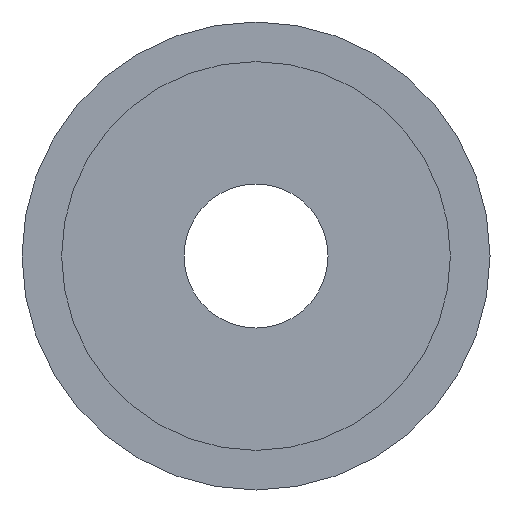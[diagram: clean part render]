
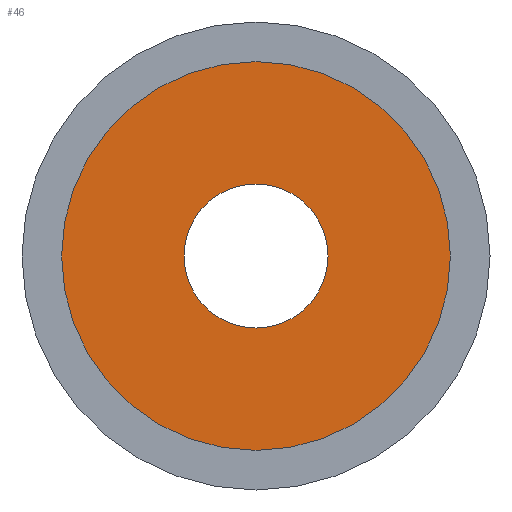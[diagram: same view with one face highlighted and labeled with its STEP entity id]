
A CAD part, front view. The second image highlights one B-rep face of the part: STEP entity #46.
In plain terms, the highlighted planar face has unit normal (0, -1, 0).
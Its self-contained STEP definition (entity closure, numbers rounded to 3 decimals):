
#46 = ADVANCED_FACE ( 'NONE', ( #283, #278 ), #277, .F. ) ;
#47 = ORIENTED_EDGE ( 'NONE', *, *, #246, .T. ) ;
#48 = ORIENTED_EDGE ( 'NONE', *, *, #49, .T. ) ;
#49 = EDGE_CURVE ( 'NONE', #244, #247, #272, .T. ) ;
#50 = EDGE_LOOP ( 'NONE', ( #51, #52 ) ) ;
#51 = ORIENTED_EDGE ( 'NONE', *, *, #232, .T. ) ;
#52 = ORIENTED_EDGE ( 'NONE', *, *, #53, .T. ) ;
#53 = EDGE_CURVE ( 'NONE', #230, #233, #321, .T. ) ;
#57 = EDGE_LOOP ( 'NONE', ( #47, #48 ) ) ;
#230 = VERTEX_POINT ( 'NONE', #421 ) ;
#232 = EDGE_CURVE ( 'NONE', #233, #230, #420, .T. ) ;
#233 = VERTEX_POINT ( 'NONE', #415 ) ;
#244 = VERTEX_POINT ( 'NONE', #457 ) ;
#246 = EDGE_CURVE ( 'NONE', #247, #244, #456, .T. ) ;
#247 = VERTEX_POINT ( 'NONE', #451 ) ;
#268 = DIRECTION ( 'NONE',  ( 0., 0., -1. ) ) ;
#269 = DIRECTION ( 'NONE',  ( 0., -1., 0. ) ) ;
#270 = CARTESIAN_POINT ( 'NONE',  ( 0., 0., 0. ) ) ;
#271 = AXIS2_PLACEMENT_3D ( 'NONE', #270, #269, #268 ) ;
#272 = CIRCLE ( 'NONE', #271, 5.4 ) ;
#273 = DIRECTION ( 'NONE',  ( 0., 0., 1. ) ) ;
#274 = DIRECTION ( 'NONE',  ( 0., 1., 0. ) ) ;
#275 = CARTESIAN_POINT ( 'NONE',  ( 0., 0., 0. ) ) ;
#276 = AXIS2_PLACEMENT_3D ( 'NONE', #275, #274, #273 ) ;
#277 = PLANE ( 'NONE',  #276 ) ;
#278 = FACE_BOUND ( 'NONE', #50, .T. ) ;
#283 = FACE_OUTER_BOUND ( 'NONE', #57, .T. ) ;
#317 = DIRECTION ( 'NONE',  ( 0., 0., 1. ) ) ;
#318 = DIRECTION ( 'NONE',  ( 0., 1., 0. ) ) ;
#319 = CARTESIAN_POINT ( 'NONE',  ( 0., 0., 0. ) ) ;
#320 = AXIS2_PLACEMENT_3D ( 'NONE', #319, #318, #317 ) ;
#321 = CIRCLE ( 'NONE', #320, 2. ) ;
#415 = CARTESIAN_POINT ( 'NONE',  ( 0., 0., -2. ) ) ;
#416 = DIRECTION ( 'NONE',  ( 0., 0., 1. ) ) ;
#417 = DIRECTION ( 'NONE',  ( 0., 1., 0. ) ) ;
#418 = CARTESIAN_POINT ( 'NONE',  ( 0., 0., 0. ) ) ;
#419 = AXIS2_PLACEMENT_3D ( 'NONE', #418, #417, #416 ) ;
#420 = CIRCLE ( 'NONE', #419, 2. ) ;
#421 = CARTESIAN_POINT ( 'NONE',  ( 0., 0., 2. ) ) ;
#451 = CARTESIAN_POINT ( 'NONE',  ( 0., 0., -5.4 ) ) ;
#452 = DIRECTION ( 'NONE',  ( 0., 0., -1. ) ) ;
#453 = DIRECTION ( 'NONE',  ( 0., -1., 0. ) ) ;
#454 = CARTESIAN_POINT ( 'NONE',  ( 0., 0., 0. ) ) ;
#455 = AXIS2_PLACEMENT_3D ( 'NONE', #454, #453, #452 ) ;
#456 = CIRCLE ( 'NONE', #455, 5.4 ) ;
#457 = CARTESIAN_POINT ( 'NONE',  ( 0., 0., 5.4 ) ) ;
